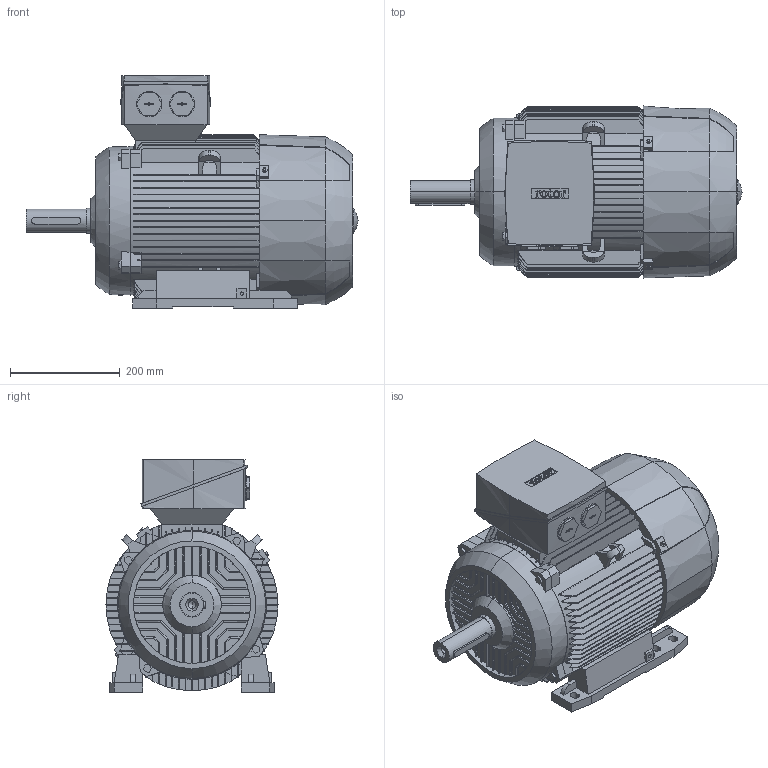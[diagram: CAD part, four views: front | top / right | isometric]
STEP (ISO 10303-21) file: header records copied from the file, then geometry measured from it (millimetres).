
FILE_DESCRIPTION (( 'STEP AP214' ), '1' );
FILE_NAME ('6RN160M08E12 IM1041.STEP', '2016-12-29T12:29:34', ( 'rbc_ict' ), ( 'Microsoft' ), 'SwSTEP 2.0', 'SolidWorks 2015', '' );
FILE_SCHEMA (( 'AUTOMOTIVE_DESIGN' ));
Length unit declared in the file: millimetre
Products named in the file (1): 6RN160M08E12 IM1041
Bounding box: 606 x 314 x 425 mm (x, y, z)
Volume: 34461145.7 mm3; surface area: 1354483.3 mm2
Topology: 1 solids, 1 shells, 1290 faces, 3676 edges, 2417 vertices
Faces by surface type: plane 812, cylinder 268, bspline 184, cone 26
Entity records: 61982 total; most frequent: CARTESIAN_POINT 17318, ORIENTED_EDGE 7336, DIRECTION 5494, EDGE_CURVE 3668, VERTEX_POINT 2417, LINE 2200, VECTOR 2200, AXIS2_PLACEMENT_3D 1647
